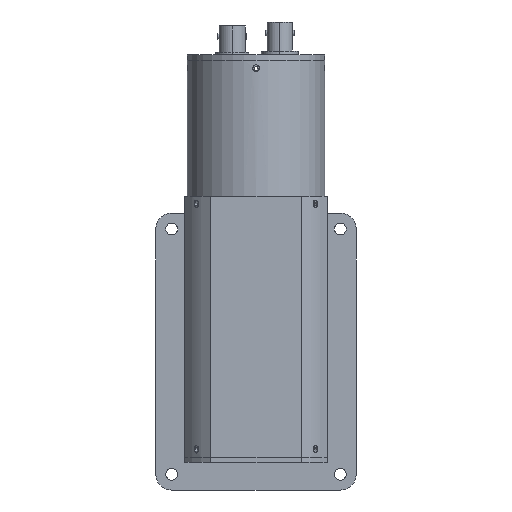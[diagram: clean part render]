
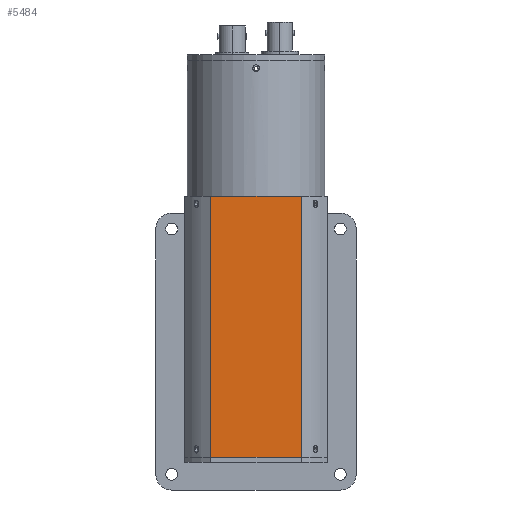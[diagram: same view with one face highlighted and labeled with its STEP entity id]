
A CAD part, front view. The second image highlights one B-rep face of the part: STEP entity #5484.
In plain terms, the highlighted planar face has unit normal (0, -1, 0).
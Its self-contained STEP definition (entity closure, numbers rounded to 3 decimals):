
#520 = VECTOR ( 'NONE', #2048, 1000. ) ;
#930 = DIRECTION ( 'NONE',  ( 0., 1., 0. ) ) ;
#972 = CARTESIAN_POINT ( 'NONE',  ( -14.103, -28.191, 0. ) ) ;
#1175 = VECTOR ( 'NONE', #4490, 1000. ) ;
#1437 = EDGE_CURVE ( 'NONE', #8634, #4191, #2375, .T. ) ;
#1692 = VECTOR ( 'NONE', #2390, 1000. ) ;
#2048 = DIRECTION ( 'NONE',  ( 0., 0., 1. ) ) ;
#2375 = LINE ( 'NONE', #5635, #520 ) ;
#2390 = DIRECTION ( 'NONE',  ( -1., 0., 0. ) ) ;
#2631 = EDGE_CURVE ( 'NONE', #7503, #8634, #7584, .T. ) ;
#2635 = ORIENTED_EDGE ( 'NONE', *, *, #7517, .F. ) ;
#3154 = CARTESIAN_POINT ( 'NONE',  ( 22.073, -28.191, 99. ) ) ;
#3457 = LINE ( 'NONE', #4895, #9037 ) ;
#4191 = VERTEX_POINT ( 'NONE', #8138 ) ;
#4309 = CARTESIAN_POINT ( 'NONE',  ( 22.073, -28.191, 99. ) ) ;
#4490 = DIRECTION ( 'NONE',  ( 0., 0., -1. ) ) ;
#4895 = CARTESIAN_POINT ( 'NONE',  ( -14.103, -28.191, 99. ) ) ;
#5437 = EDGE_LOOP ( 'NONE', ( #8571, #8171, #8158, #2635 ) ) ;
#5484 = ADVANCED_FACE ( 'NONE', ( #6860 ), #7175, .F. ) ;
#5563 = CARTESIAN_POINT ( 'NONE',  ( 22.073, -28.191, 0. ) ) ;
#5635 = CARTESIAN_POINT ( 'NONE',  ( -12.279, -28.191, 99. ) ) ;
#5805 = LINE ( 'NONE', #3154, #1175 ) ;
#6860 = FACE_OUTER_BOUND ( 'NONE', #5437, .T. ) ;
#7119 = AXIS2_PLACEMENT_3D ( 'NONE', #7901, #930, #8090 ) ;
#7127 = EDGE_CURVE ( 'NONE', #8661, #7503, #5805, .T. ) ;
#7151 = CARTESIAN_POINT ( 'NONE',  ( -12.279, -28.191, 0. ) ) ;
#7175 = PLANE ( 'NONE',  #7119 ) ;
#7503 = VERTEX_POINT ( 'NONE', #5563 ) ;
#7517 = EDGE_CURVE ( 'NONE', #4191, #8661, #3457, .T. ) ;
#7584 = LINE ( 'NONE', #972, #1692 ) ;
#7790 = DIRECTION ( 'NONE',  ( 1., 0., 0. ) ) ;
#7901 = CARTESIAN_POINT ( 'NONE',  ( -14.103, -28.191, -0.001 ) ) ;
#8090 = DIRECTION ( 'NONE',  ( 0., 0., -1. ) ) ;
#8138 = CARTESIAN_POINT ( 'NONE',  ( -12.279, -28.191, 99. ) ) ;
#8158 = ORIENTED_EDGE ( 'NONE', *, *, #7127, .F. ) ;
#8171 = ORIENTED_EDGE ( 'NONE', *, *, #2631, .F. ) ;
#8571 = ORIENTED_EDGE ( 'NONE', *, *, #1437, .F. ) ;
#8634 = VERTEX_POINT ( 'NONE', #7151 ) ;
#8661 = VERTEX_POINT ( 'NONE', #4309 ) ;
#9037 = VECTOR ( 'NONE', #7790, 1000. ) ;
